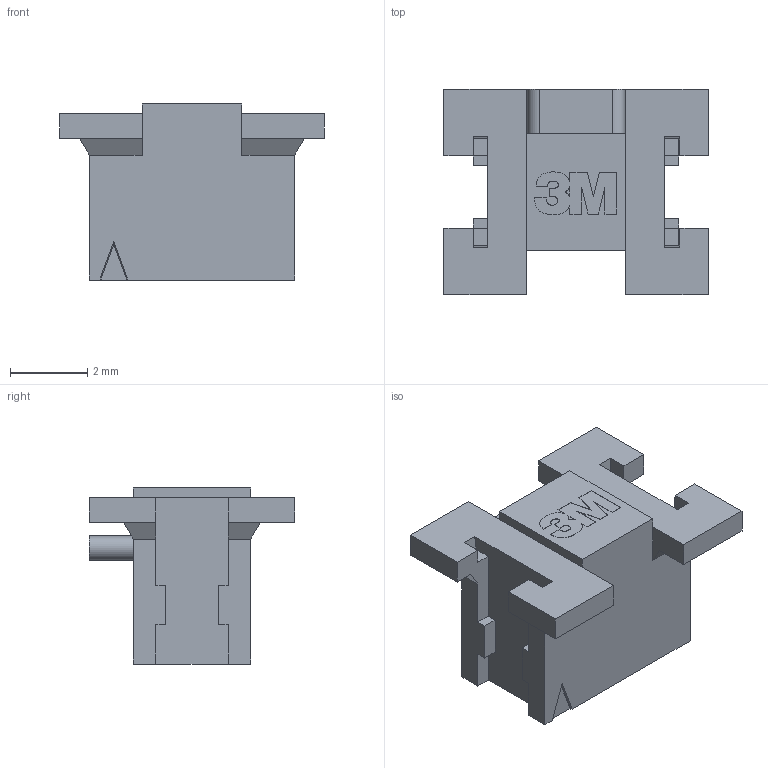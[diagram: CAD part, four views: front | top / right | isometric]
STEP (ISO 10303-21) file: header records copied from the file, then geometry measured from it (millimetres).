
FILE_DESCRIPTION(/* description */ (''),/* implementation_level */ '2;1');
FILE_NAME(/* name */ '78-5110-6164-6.stp',/* time_stamp */ '2013-09-26T14:13:23-05:00',/* author */ (''),/* organization */ (''),/* preprocessor_version */ 'ST-DEVELOPER v11',/* originating_system */ 'SIEMENS PLM Software NX 7.5',/* authorisation */ '');
FILE_SCHEMA (('AUTOMOTIVE_DESIGN { 1 0 10303 214 1 1 1 1 }'));
Length unit declared in the file: inch
Products named in the file (1): 78-5110-6164-6
Bounding box: 6.86 x 5.33 x 4.57 mm (x, y, z)
Volume: 75.5 mm3; surface area: 156.4 mm2
Topology: 2 solids, 2 shells, 269 faces, 772 edges, 513 vertices
Faces by surface type: plane 265, extrusion 2, cylinder 2
Entity records: 9112 total; most frequent: CARTESIAN_POINT 2689, ORIENTED_EDGE 1544, DIRECTION 978, EDGE_CURVE 772, VERTEX_POINT 513, VECTOR 434, LINE 432, B_SPLINE_CURVE_WITH_KNOTS 338
